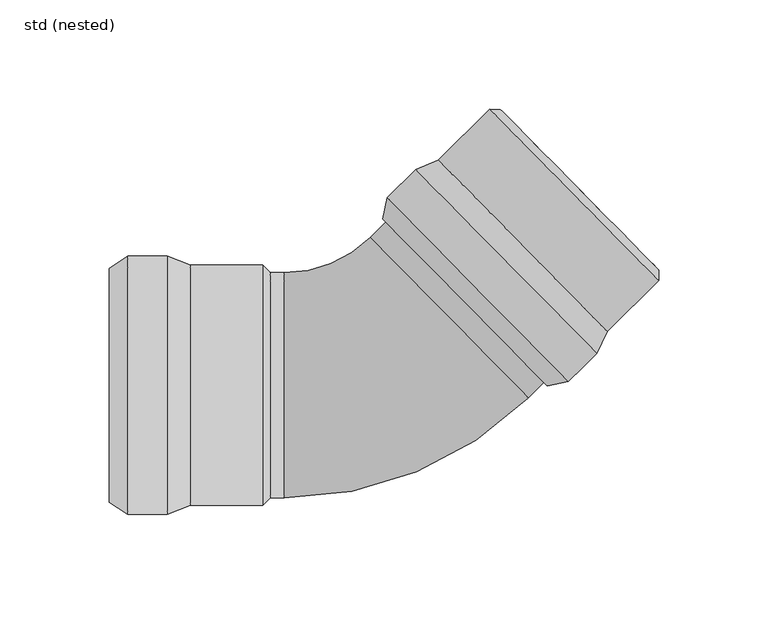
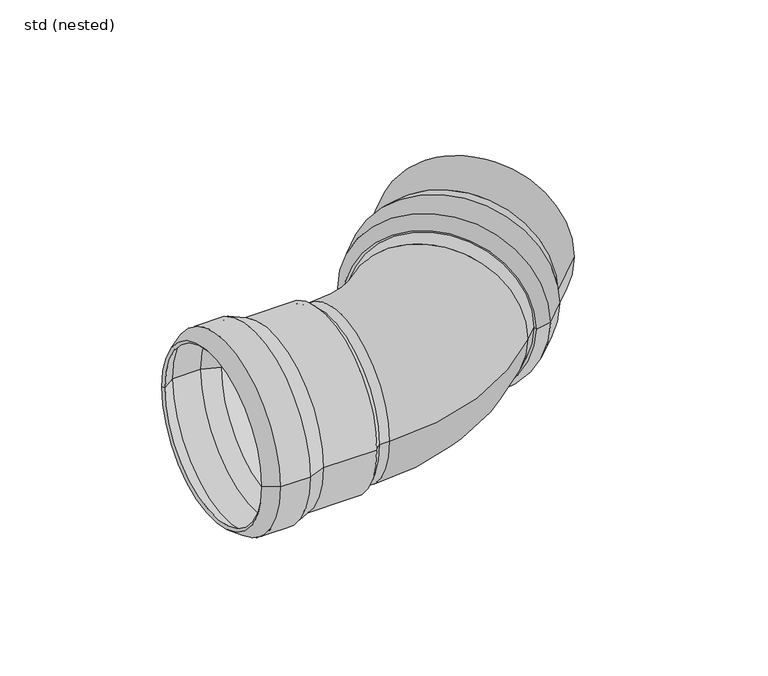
"""IFC4 building model written with IfcOpenShell, lengths in millimetres: pipe fitting geometry, ZZZ_do not use_PIF_ST_UN_GM-X pipe bend_ACO : std (nested)."""

from ifc_helpers import new_model, si_unit, point, frame, origin, place, context, project, spatial, polyline, circle_curve, ellipse_curve, trimmed, source, transform, mapped, element, save
from ifc_brep_helpers import plane_surface, cylinder_surface, revolved_surface, advanced_brep


def std_nested_37ce9ab0(model_context):
    return source(origin(), model_context, "Body", "AdvancedBrep", [
        advanced_brep(
        [(15.9421234, 98.5246096, 0.0), (98.7526345, 14.4626131, 0.0), (85.7871401, 1.6901445, 0.0), (2.976629, 85.752141, 0.0), (26.2293523, 103.0437823, 0.0), (103.4255914, 24.6809043, 0.0), (76.0144928, -0.2165187, 0.0), (0.9236056, 76.0091899, 0.0), (49.7382157, 126.2026541, 0.0), (126.9344549, 47.839776, 0.0), (54.687824, 126.1655338, 0.0), (126.9715752, 52.7893843, 0.0), (52.1944597, 123.7092898, 0.0), (124.4782109, 50.3331403, 0.0), (27.3707243, 101.3607103, 0.0), (101.7598275, 25.8473914, 0.0), (125.5308869, 49.2645556, 0.0), (51.1417837, 124.7778745, 0.0), (17.0834954, 96.8415375, 0.0), (97.0868706, 15.6291003, 0.0), (4.8094202, 84.7501944, 0.0), (84.8127953, 3.5377571, 0.0), (2.8806292, 75.5968082, 0.0), (75.6315098, 1.7464698, 0.0)],
        [
            (0, 1, circle_curve(frame((57.347379, 56.4936114, 0.0), z_axis=(-0.7123898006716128, -0.7017839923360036, 0.0), x_axis=(0.7017839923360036, -0.7123898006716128, 0.0)), 59.0)),
            (1, 2),
            (2, 3, circle_curve(frame((44.3818846, 43.7211427, 0.0), z_axis=(0.7123898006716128, 0.7017839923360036, 0.0), x_axis=(0.7017839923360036, -0.7123898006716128, 0.0)), 59.0)),
            (3, 0),
            (1, 0, circle_curve(frame((57.347379, 56.4936114, 0.0), z_axis=(-0.7123898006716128, -0.7017839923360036, 0.0), x_axis=(0.7017839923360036, -0.7123898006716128, 0.0)), 59.0)),
            (3, 2, circle_curve(frame((44.3818846, 43.7211427, 0.0), z_axis=(0.7123898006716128, 0.7017839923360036, 0.0), x_axis=(0.7017839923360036, -0.7123898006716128, 0.0)), 59.0)),
            (4, 5, circle_curve(frame((64.8274719, 63.8623433, 0.0), z_axis=(-0.7123898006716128, -0.7017839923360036, 0.0), x_axis=(0.7017839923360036, -0.7123898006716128, 0.0)), 55.0)),
            (5, 1),
            (0, 4),
            (5, 4, circle_curve(frame((64.8274719, 63.8623433, 0.0), z_axis=(-0.7123898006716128, -0.7017839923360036, 0.0), x_axis=(0.7017839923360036, -0.7123898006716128, 0.0)), 55.0)),
            (2, 6),
            (6, 7, circle_curve(frame((38.4690492, 37.8963356, 0.0), z_axis=(0.7123898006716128, 0.7017839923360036, 0.0), x_axis=(0.7017839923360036, -0.7123898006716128, 0.0)), 53.5)),
            (7, 3),
            (7, 6, circle_curve(frame((38.4690492, 37.8963356, 0.0), z_axis=(0.7123898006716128, 0.7017839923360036, 0.0), x_axis=(0.7017839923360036, -0.7123898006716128, 0.0)), 53.5)),
            (8, 9, circle_curve(frame((88.3363353, 87.021215, 0.0), z_axis=(-0.7123898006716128, -0.7017839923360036, 0.0), x_axis=(0.7017839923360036, -0.7123898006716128, 0.0)), 55.0)),
            (9, 5),
            (4, 8),
            (9, 8, circle_curve(frame((88.3363353, 87.021215, 0.0), z_axis=(-0.7123898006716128, -0.7017839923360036, 0.0), x_axis=(0.7017839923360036, -0.7123898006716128, 0.0)), 55.0)),
            (10, 11, circle_curve(frame((90.8296996, 89.477459, 0.0), z_axis=(-0.7123898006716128, -0.7017839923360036, 0.0), x_axis=(0.7017839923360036, -0.7123898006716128, 0.0)), 51.5)),
            (11, 9),
            (8, 10),
            (11, 10, circle_curve(frame((90.8296996, 89.477459, 0.0), z_axis=(-0.7123898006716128, -0.7017839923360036, 0.0), x_axis=(0.7017839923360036, -0.7123898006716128, 0.0)), 51.5)),
            (12, 13, circle_curve(frame((88.3363353, 87.021215, 0.0), z_axis=(-0.7123898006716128, -0.7017839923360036, 0.0), x_axis=(0.7017839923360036, -0.7123898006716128, 0.0)), 51.5)),
            (13, 11),
            (10, 12),
            (13, 12, circle_curve(frame((88.3363353, 87.021215, 0.0), z_axis=(-0.7123898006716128, -0.7017839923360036, 0.0), x_axis=(0.7017839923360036, -0.7123898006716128, 0.0)), 51.5)),
            (14, 15, circle_curve(frame((64.5652759, 63.6040508, 0.0), z_axis=(-0.7123898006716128, -0.7017839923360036, 0.0), x_axis=(0.7017839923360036, -0.7123898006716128, 0.0)), 53.0)),
            (15, 16),
            (16, 17, circle_curve(frame((88.3363353, 87.021215, 0.0), z_axis=(0.7123898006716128, 0.7017839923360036, 0.0), x_axis=(0.7017839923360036, -0.7123898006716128, 0.0)), 53.0)),
            (17, 14),
            (15, 14, circle_curve(frame((64.5652759, 63.6040508, 0.0), z_axis=(-0.7123898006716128, -0.7017839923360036, 0.0), x_axis=(0.7017839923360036, -0.7123898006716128, 0.0)), 53.0)),
            (17, 16, circle_curve(frame((88.3363353, 87.021215, 0.0), z_axis=(0.7123898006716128, 0.7017839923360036, 0.0), x_axis=(0.7017839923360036, -0.7123898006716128, 0.0)), 53.0)),
            (18, 19, circle_curve(frame((57.085183, 56.2353189, 0.0), z_axis=(-0.7123898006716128, -0.7017839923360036, 0.0), x_axis=(0.7017839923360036, -0.7123898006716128, 0.0)), 57.0)),
            (19, 15),
            (14, 18),
            (19, 18, circle_curve(frame((57.085183, 56.2353189, 0.0), z_axis=(-0.7123898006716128, -0.7017839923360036, 0.0), x_axis=(0.7017839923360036, -0.7123898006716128, 0.0)), 57.0)),
            (20, 21, circle_curve(frame((44.8111078, 44.1439758, 0.0), z_axis=(-0.7123898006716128, -0.7017839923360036, 0.0), x_axis=(0.7017839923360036, -0.7123898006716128, 0.0)), 57.0)),
            (21, 19),
            (18, 20),
            (21, 20, circle_curve(frame((44.8111078, 44.1439758, 0.0), z_axis=(-0.7123898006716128, -0.7017839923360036, 0.0), x_axis=(0.7017839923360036, -0.7123898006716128, 0.0)), 57.0)),
            (22, 23, circle_curve(frame((39.2560695, 38.671639, 0.0), z_axis=(-0.7123898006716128, -0.7017839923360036, 0.0), x_axis=(0.7017839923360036, -0.7123898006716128, 0.0)), 51.8328156)),
            (23, 21),
            (20, 22),
            (23, 22, circle_curve(frame((39.2560695, 38.671639, 0.0), z_axis=(-0.7123898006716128, -0.7017839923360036, 0.0), x_axis=(0.7017839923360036, -0.7123898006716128, 0.0)), 51.8328156)),
            (6, 23),
            (22, 7),
            (16, 13),
            (12, 17),
        ],
        [
            cylinder_surface(frame((40.8595361, 40.2512337, 0.0), z_axis=(0.7123898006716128, 0.7017839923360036, 0.0), x_axis=(0.7017839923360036, -0.7123898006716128, 0.0)), 59.0),
            revolved_surface(polyline([(98.7526345, 14.4626131, 0.0), (103.4255914, 24.6809043, 0.0)]), (40.8595361, 40.2512337, 0.0), (0.7123898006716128, 0.7017839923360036, 0.0)),
            revolved_surface(polyline([(76.0144928, -0.2165187, 0.0), (85.7871401, 1.6901445, 0.0)]), (40.8595361, 40.2512337, 0.0), (0.7123898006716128, 0.7017839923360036, 0.0)),
            cylinder_surface(frame((40.8595361, 40.2512337, 0.0), z_axis=(0.7123898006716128, 0.7017839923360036, 0.0), x_axis=(0.7017839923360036, -0.7123898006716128, 0.0)), 55.0),
            revolved_surface(polyline([(126.9344549, 47.839776, 0.0), (126.9715752, 52.7893843, 0.0)]), (40.8595361, 40.2512337, 0.0), (0.7123898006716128, 0.7017839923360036, 0.0)),
            revolved_surface(polyline([(126.97157523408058, 52.78938430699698, 0.0), (124.47821088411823, 50.33314028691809, 0.0)]), (40.8595361, 40.2512337, 0.0), (0.7123898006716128, 0.7017839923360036, 0.0)),
            revolved_surface(polyline([(125.53088690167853, 49.26455561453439, 0.0), (101.75982749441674, 25.847391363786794, 0.0)]), (40.8595361, 40.2512337, 0.0), (0.7123898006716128, 0.7017839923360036, 0.0)),
            revolved_surface(polyline([(101.7598275, 25.8473914, 0.0), (97.0868706, 15.6291003, 0.0)]), (40.8595361, 40.2512337, 0.0), (0.7123898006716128, 0.7017839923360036, 0.0)),
            revolved_surface(polyline([(97.08687060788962, 15.629100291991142, 0.0), (84.81279530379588, 3.537757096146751, 0.0)]), (40.8595361, 40.2512337, 0.0), (0.7123898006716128, 0.7017839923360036, 0.0)),
            revolved_surface(polyline([(84.8127953, 3.5377571, 0.0), (75.6315098, 1.7464698, 0.0)]), (40.8595361, 40.2512337, 0.0), (0.7123898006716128, 0.7017839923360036, 0.0)),
            revolved_surface(polyline([(75.6315098, 1.7464698, 0.0), (76.0144928, -0.2165187, 0.0)]), (40.8595361, 40.2512337, 0.0), (0.7123898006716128, 0.7017839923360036, 0.0)),
            plane_surface(frame((88.3363353, 87.021215, 0.0), z_axis=(-0.7123898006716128, -0.7017839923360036, 0.0), x_axis=(0.7017839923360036, -0.7123898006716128, 0.0))),
        ],
        [
            (0, [[1, 2, 3, 4]]),
            (0, [[5, -4, 6, -2]]),
            (1, [[7, 8, -1, 9]]),
            (1, [[10, -9, -5, -8]]),
            (2, [[-3, 11, 12, 13]]),
            (2, [[-6, -13, 14, -11]]),
            (3, [[15, 16, -7, 17]]),
            (3, [[18, -17, -10, -16]]),
            (4, [[19, 20, -15, 21]]),
            (4, [[22, -21, -18, -20]]),
            (5, [[23, 24, -19, 25]]),
            (5, [[26, -25, -22, -24]]),
            (6, [[27, 28, 29, 30]]),
            (6, [[31, -30, 32, -28]]),
            (7, [[33, 34, -27, 35]]),
            (7, [[36, -35, -31, -34]]),
            (8, [[37, 38, -33, 39]]),
            (8, [[40, -39, -36, -38]]),
            (9, [[41, 42, -37, 43]]),
            (9, [[44, -43, -40, -42]]),
            (10, [[-12, 45, -41, 46]]),
            (10, [[-14, -46, -44, -45]]),
            (11, [[-29, 47, -23, 48]]),
            (11, [[-32, -48, -26, -47]]),
        ],
    ),
        advanced_brep(
        [(-97.5, 59.0, 0.0), (-97.5, -59.0, 0.0), (-115.7, -59.0, 0.0), (-115.7, 59.0, 0.0), (-87.0, 55.0, 0.0), (-87.0, -55.0, 0.0), (-124.0, -53.5, 0.0), (-124.0, 53.5, 0.0), (-54.0, 55.0, 0.0), (-54.0, -55.0, 0.0), (-50.5, 51.5, 0.0), (-50.5, -51.5, 0.0), (-54.0, 51.5, 0.0), (-54.0, -51.5, 0.0), (-87.3680513, 53.0, 0.0), (-87.3680513, -53.0, 0.0), (-54.0, -53.0, 0.0), (-54.0, 53.0, 0.0), (-97.8680513, 57.0, 0.0), (-97.8680513, -57.0, 0.0), (-115.0974883, 57.0, 0.0), (-115.0974883, -57.0, 0.0), (-122.8952393, 51.8328156, 0.0), (-122.8952393, -51.8328156, 0.0)],
        [
            (0, 1, circle_curve(frame((-97.5, 0.0, 0.0), z_axis=(-1.0, 0.0, 0.0), x_axis=(0.0, -1.0, 0.0)), 59.0)),
            (1, 2),
            (2, 3, circle_curve(frame((-115.7, 0.0, 0.0), z_axis=(1.0, 0.0, 0.0), x_axis=(0.0, -1.0, 0.0)), 59.0)),
            (3, 0),
            (1, 0, circle_curve(frame((-97.5, 0.0, 0.0), z_axis=(-1.0, 0.0, 0.0), x_axis=(0.0, -1.0, 0.0)), 59.0)),
            (3, 2, circle_curve(frame((-115.7, 0.0, 0.0), z_axis=(1.0, 0.0, 0.0), x_axis=(0.0, -1.0, 0.0)), 59.0)),
            (4, 5, circle_curve(frame((-87.0, 0.0, 0.0), z_axis=(-1.0, 0.0, 0.0), x_axis=(0.0, -1.0, 0.0)), 55.0)),
            (5, 1),
            (0, 4),
            (5, 4, circle_curve(frame((-87.0, 0.0, 0.0), z_axis=(-1.0, 0.0, 0.0), x_axis=(0.0, -1.0, 0.0)), 55.0)),
            (2, 6),
            (6, 7, circle_curve(frame((-124.0, 0.0, 0.0), z_axis=(1.0, 0.0, 0.0), x_axis=(0.0, -1.0, 0.0)), 53.5)),
            (7, 3),
            (7, 6, circle_curve(frame((-124.0, 0.0, 0.0), z_axis=(1.0, 0.0, 0.0), x_axis=(0.0, -1.0, 0.0)), 53.5)),
            (8, 9, circle_curve(frame((-54.0, 0.0, 0.0), z_axis=(-1.0, 0.0, 0.0), x_axis=(0.0, -1.0, 0.0)), 55.0)),
            (9, 5),
            (4, 8),
            (9, 8, circle_curve(frame((-54.0, 0.0, 0.0), z_axis=(-1.0, 0.0, 0.0), x_axis=(0.0, -1.0, 0.0)), 55.0)),
            (10, 11, circle_curve(frame((-50.5, 0.0, 0.0), z_axis=(-1.0, 0.0, 0.0), x_axis=(0.0, -1.0, 0.0)), 51.5)),
            (11, 9),
            (8, 10),
            (11, 10, circle_curve(frame((-50.5, 0.0, 0.0), z_axis=(-1.0, 0.0, 0.0), x_axis=(0.0, -1.0, 0.0)), 51.5)),
            (12, 13, circle_curve(frame((-54.0, 0.0, 0.0), z_axis=(-1.0, 0.0, 0.0), x_axis=(0.0, -1.0, 0.0)), 51.5)),
            (13, 11),
            (10, 12),
            (13, 12, circle_curve(frame((-54.0, 0.0, 0.0), z_axis=(-1.0, 0.0, 0.0), x_axis=(0.0, -1.0, 0.0)), 51.5)),
            (14, 15, circle_curve(frame((-87.3680513, 0.0, 0.0), z_axis=(-1.0, 0.0, 0.0), x_axis=(0.0, -1.0, 0.0)), 53.0)),
            (15, 16),
            (16, 17, circle_curve(frame((-54.0, 0.0, 0.0), z_axis=(1.0, 0.0, 0.0), x_axis=(0.0, -1.0, 0.0)), 53.0)),
            (17, 14),
            (15, 14, circle_curve(frame((-87.3680513, 0.0, 0.0), z_axis=(-1.0, 0.0, 0.0), x_axis=(0.0, -1.0, 0.0)), 53.0)),
            (17, 16, circle_curve(frame((-54.0, 0.0, 0.0), z_axis=(1.0, 0.0, 0.0), x_axis=(0.0, -1.0, 0.0)), 53.0)),
            (18, 19, circle_curve(frame((-97.8680513, 0.0, 0.0), z_axis=(-1.0, 0.0, 0.0), x_axis=(0.0, -1.0, 0.0)), 57.0)),
            (19, 15),
            (14, 18),
            (19, 18, circle_curve(frame((-97.8680513, 0.0, 0.0), z_axis=(-1.0, 0.0, 0.0), x_axis=(0.0, -1.0, 0.0)), 57.0)),
            (20, 21, circle_curve(frame((-115.0974883, 0.0, 0.0), z_axis=(-1.0, 0.0, 0.0), x_axis=(0.0, -1.0, 0.0)), 57.0)),
            (21, 19),
            (18, 20),
            (21, 20, circle_curve(frame((-115.0974883, 0.0, 0.0), z_axis=(-1.0, 0.0, 0.0), x_axis=(0.0, -1.0, 0.0)), 57.0)),
            (22, 23, circle_curve(frame((-122.8952393, 0.0, 0.0), z_axis=(-1.0, 0.0, 0.0), x_axis=(0.0, -1.0, 0.0)), 51.8328156)),
            (23, 21),
            (20, 22),
            (23, 22, circle_curve(frame((-122.8952393, 0.0, 0.0), z_axis=(-1.0, 0.0, 0.0), x_axis=(0.0, -1.0, 0.0)), 51.8328156)),
            (6, 23),
            (22, 7),
            (16, 13),
            (12, 17),
        ],
        [
            cylinder_surface(frame((-120.6444117, 0.0, 0.0), z_axis=(1.0, 0.0, 0.0), x_axis=(0.0, -1.0, 0.0)), 59.0),
            revolved_surface(polyline([(-97.5, -59.0, 0.0), (-87.0, -55.0, 0.0)]), (-120.6444117, 0.0, 0.0), (1.0, 0.0, 0.0)),
            revolved_surface(polyline([(-124.0, -53.5, 0.0), (-115.7, -59.0, 0.0)]), (-120.6444117, 0.0, 0.0), (1.0, 0.0, 0.0)),
            cylinder_surface(frame((-120.6444117, 0.0, 0.0), z_axis=(1.0, 0.0, 0.0), x_axis=(0.0, -1.0, 0.0)), 55.0),
            revolved_surface(polyline([(-54.0, -55.0, 0.0), (-50.5, -51.5, 0.0)]), (-120.6444117, 0.0, 0.0), (1.0, 0.0, 0.0)),
            revolved_surface(polyline([(-50.5, -51.5, 0.0), (-54.0, -51.5, 0.0)]), (-120.6444117, 0.0, 0.0), (1.0, 0.0, 0.0)),
            revolved_surface(polyline([(-54.0, -53.0, 0.0), (-87.3680513, -53.0, 0.0)]), (-120.6444117, 0.0, 0.0), (1.0, 0.0, 0.0)),
            revolved_surface(polyline([(-87.3680513, -53.0, 0.0), (-97.8680513, -57.0, 0.0)]), (-120.6444117, 0.0, 0.0), (1.0, 0.0, 0.0)),
            revolved_surface(polyline([(-97.8680513, -57.0, 0.0), (-115.0974883, -57.0, 0.0)]), (-120.6444117, 0.0, 0.0), (1.0, 0.0, 0.0)),
            revolved_surface(polyline([(-115.0974883, -57.0, 0.0), (-122.8952393, -51.8328156, 0.0)]), (-120.6444117, 0.0, 0.0), (1.0, 0.0, 0.0)),
            revolved_surface(polyline([(-122.8952393, -51.8328156, 0.0), (-124.0, -53.5, 0.0)]), (-120.6444117, 0.0, 0.0), (1.0, 0.0, 0.0)),
            plane_surface(frame((-54.0, 0.0, 0.0), z_axis=(-1.0, 0.0, 0.0), x_axis=(0.0, -1.0, 0.0))),
        ],
        [
            (0, [[1, 2, 3, 4]]),
            (0, [[5, -4, 6, -2]]),
            (1, [[7, 8, -1, 9]]),
            (1, [[10, -9, -5, -8]]),
            (2, [[-3, 11, 12, 13]]),
            (2, [[-6, -13, 14, -11]]),
            (3, [[15, 16, -7, 17]]),
            (3, [[18, -17, -10, -16]]),
            (4, [[19, 20, -15, 21]]),
            (4, [[22, -21, -18, -20]]),
            (5, [[23, 24, -19, 25]]),
            (5, [[26, -25, -22, -24]]),
            (6, [[27, 28, 29, 30]]),
            (6, [[31, -30, 32, -28]]),
            (7, [[33, 34, -27, 35]]),
            (7, [[36, -35, -31, -34]]),
            (8, [[37, 38, -33, 39]]),
            (8, [[40, -39, -36, -38]]),
            (9, [[41, 42, -37, 43]]),
            (9, [[44, -43, -40, -42]]),
            (10, [[-12, 45, -41, 46]]),
            (10, [[-14, -46, -44, -45]]),
            (11, [[-29, 47, -23, 48]]),
            (11, [[-32, -48, -26, -47]]),
        ],
    ),
        advanced_brep(
        [(-4.7967244, 67.5665704, 0.0), (-44.0, 51.5, 0.0), (-44.0, -51.5, 0.0), (67.4870268, -5.8095791, 0.0), (31.3451512, 30.8784957, 51.5), (31.3451512, 30.8784957, -51.5), (-54.0, -51.5, 0.0), (-54.0, 51.5, 0.0), (124.4782109, 50.3331403, 0.0), (52.1944597, 123.7092898, 0.0)],
        [
            (0, 1, circle_curve(frame((-44.0, 107.362311, 0.0), z_axis=(0.0, 0.0, -1.0), x_axis=(0.0, -1.0, 0.0)), 55.862311)),
            (1, 2, circle_curve(frame((-44.0, 0.0, 0.0), z_axis=(1.0, 0.0, 0.0), x_axis=(0.0, 1.0, 0.0)), 51.5)),
            (2, 3, circle_curve(frame((-44.0, 107.362311, 0.0), z_axis=(0.0, 0.0, 1.0), x_axis=(0.0, -1.0, 0.0)), 158.862311)),
            (3, 4, circle_curve(frame((31.3451512, 30.8784957, 0.0), z_axis=(-0.7123898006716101, -0.7017839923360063, 0.0), x_axis=(-0.7017839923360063, 0.7123898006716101, 0.0)), 51.5)),
            (4, 0, circle_curve(frame((31.3451512, 30.8784957, 0.0), z_axis=(-0.7123898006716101, -0.7017839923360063, 0.0), x_axis=(-0.7017839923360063, 0.7123898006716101, 0.0)), 51.5)),
            (0, 5, circle_curve(frame((31.3451512, 30.8784957, 0.0), z_axis=(-0.7123898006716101, -0.7017839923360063, 0.0), x_axis=(-0.7017839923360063, 0.7123898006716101, 0.0)), 51.5)),
            (5, 3, circle_curve(frame((31.3451512, 30.8784957, 0.0), z_axis=(-0.7123898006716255, -0.7017839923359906, 0.0), x_axis=(-0.7017839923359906, 0.7123898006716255, 0.0)), 51.5)),
            (2, 1, circle_curve(frame((-44.0, 0.0, 0.0), z_axis=(1.0, 0.0, 0.0), x_axis=(0.0, 1.0, 0.0)), 51.5)),
            (6, 7, circle_curve(frame((-54.0, 0.0, 0.0), z_axis=(-1.0, 0.0, 0.0), x_axis=(0.0, 1.0, 0.0)), 51.5)),
            (7, 6, circle_curve(frame((-54.0, 0.0, 0.0), z_axis=(-1.0, 0.0, 0.0), x_axis=(0.0, 1.0, 0.0)), 51.5)),
            (7, 1),
            (2, 6),
            (8, 9, circle_curve(frame((88.3363353, 87.021215, 0.0), z_axis=(0.7123898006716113, 0.701783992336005, 0.0), x_axis=(-0.701783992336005, 0.7123898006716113, 0.0)), 51.5)),
            (9, 8, circle_curve(frame((88.3363353, 87.021215, 0.0), z_axis=(0.7123898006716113, 0.701783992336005, 0.0), x_axis=(-0.701783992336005, 0.7123898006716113, 0.0)), 51.5)),
            (9, 0),
            (3, 8),
        ],
        [
            revolved_surface(trimmed(ellipse_curve(frame((-44.0, 0.0, 0.0), z_axis=(-1.0, 0.0, 0.0), x_axis=(0.0, 1.0, 0.0)), 51.5, 51.5), [point((-44.0, -51.5, 0.0))], [point((-44.0, 51.5, 0.0))], True, "CARTESIAN"), (-44.0, 107.362311, 0.0), (0.0, 0.0, 1.0)),
            revolved_surface(trimmed(ellipse_curve(frame((-44.0, 0.0, 0.0), z_axis=(-1.0, 0.0, 0.0), x_axis=(0.0, 1.0, 0.0)), 51.5, 51.5), [point((-44.0, 51.5, 0.0))], [point((-44.0, -51.5, 0.0))], True, "CARTESIAN"), (-44.0, 107.362311, 0.0), (0.0, 0.0, 1.0)),
            plane_surface(frame((-54.0, 51.5, 0.0), z_axis=(-1.0, 0.0, 0.0), x_axis=(0.0, 0.0, -1.0))),
            cylinder_surface(frame((-54.0, 0.0, 0.0), z_axis=(1.0, 0.0, 0.0), x_axis=(0.0, 1.0, 0.0)), 51.5),
            plane_surface(frame((88.3363353, 87.021215, 0.0), z_axis=(0.7123898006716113, 0.701783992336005, 0.0), x_axis=(0.0, 0.0, 1.0))),
            cylinder_surface(frame((31.3451512, 30.8784957, 0.0), z_axis=(-0.7123898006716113, -0.701783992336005, 0.0), x_axis=(-0.701783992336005, 0.7123898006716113, 0.0)), 51.5),
        ],
        [
            (0, [[1, 2, 3, 4, 5]]),
            (1, [[-1, 6, 7, -3, 8]]),
            (2, [[9, 10]]),
            (3, [[-10, 11, -8, 12]]),
            (3, [[-9, -12, -2, -11]]),
            (4, [[13, 14]]),
            (5, [[-14, 15, -5, -4, 16]]),
            (5, [[-13, -16, -7, -6, -15]]),
        ],
    ),
    ])


if __name__ == "__main__":
    model = new_model("IFC4")
    model_context = context("Model", 3, world=origin())
    ifc_project = project(units=[si_unit("LENGTHUNIT", "METRE", prefix="MILLI")], contexts=[model_context])
    site = spatial("IfcSite", under=ifc_project)
    building = spatial("IfcBuilding", under=site)
    placement = place(None, origin())
    std_nested_shape = std_nested_37ce9ab0(model_context)
    element("IfcPipeFitting", 1, ObjectType="ZZZ_do not use_PIF_ST_UN_GM-X pipe bend_ACO : std (nested)", at=placement, inside=building, context=model_context, shape_type="MappedRepresentation", body=[
        mapped(std_nested_shape, transform((0.0, 0.0, 0.0), x_axis=(1.0, 0.0, 0.0), y_axis=(0.0, 1.0, 0.0), z_axis=(0.0, 0.0, 1.0))),
    ])
    save(model, "model.ifc")
